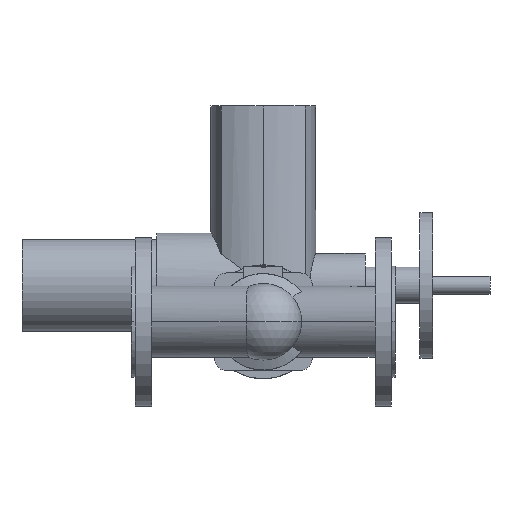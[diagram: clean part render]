
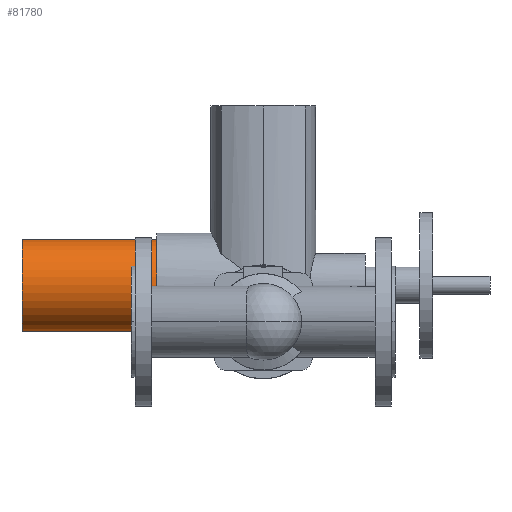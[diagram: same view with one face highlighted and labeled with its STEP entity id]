
A CAD part, front view. The second image highlights one B-rep face of the part: STEP entity #81780.
In plain terms, the highlighted cylindrical face has radius 50.5 mm (diameter 101 mm), a partial arc.
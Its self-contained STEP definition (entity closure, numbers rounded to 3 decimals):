
#66750=CARTESIAN_POINT('',(-46.,435.,40.));
#66760=DIRECTION('',(1.,0.,0.));
#66770=DIRECTION('',(0.,0.,-1.));
#66780=AXIS2_PLACEMENT_3D('',#66750,#66760,#66770);
#66790=CYLINDRICAL_SURFACE('',#66780,50.5);
#66800=CARTESIAN_POINT('',(-46.,435.,-10.5));
#66810=DIRECTION('',(1.,0.,0.));
#66820=VECTOR('',#66810,1.);
#66830=LINE('',#66800,#66820);
#66840=CARTESIAN_POINT('',(-120.,435.,-10.5));
#66850=VERTEX_POINT('',#66840);
#66860=CARTESIAN_POINT('',(28.,435.,-10.5));
#66870=VERTEX_POINT('',#66860);
#66880=EDGE_CURVE('',#66850,#66870,#66830,.T.);
#66900=CARTESIAN_POINT('',(28.,435.,40.));
#66910=DIRECTION('',(-1.,0.,0.));
#66920=DIRECTION('',(0.,0.,-1.));
#66930=AXIS2_PLACEMENT_3D('',#66900,#66910,#66920);
#66940=CIRCLE('',#66930,50.5);
#66950=CARTESIAN_POINT('',(28.,435.,90.5));
#66960=VERTEX_POINT('',#66950);
#66990=CARTESIAN_POINT('',(-46.,435.,90.5));
#67000=DIRECTION('',(1.,0.,0.));
#67010=VECTOR('',#67000,1.);
#67020=LINE('',#66990,#67010);
#67030=CARTESIAN_POINT('',(-120.,435.,90.5));
#67040=VERTEX_POINT('',#67030);
#67050=EDGE_CURVE('',#67040,#66960,#67020,.T.);
#67070=CARTESIAN_POINT('',(-120.,435.,40.));
#67080=DIRECTION('',(-1.,0.,0.));
#67090=DIRECTION('',(0.,0.,-1.));
#67100=AXIS2_PLACEMENT_3D('',#67070,#67080,#67090);
#67110=CIRCLE('',#67100,50.5);
#80170=EDGE_CURVE('',#66850,#67040,#67110,.T.);
#80750=EDGE_CURVE('',#66870,#66960,#66940,.T.);
#81720=ORIENTED_EDGE('',*,*,#80170,.F.);
#81730=ORIENTED_EDGE('',*,*,#67050,.F.);
#81740=ORIENTED_EDGE('',*,*,#80750,.T.);
#81750=ORIENTED_EDGE('',*,*,#66880,.T.);
#81760=EDGE_LOOP('',(#81750,#81740,#81730,#81720));
#81770=FACE_OUTER_BOUND('',#81760,.T.);
#81780=ADVANCED_FACE('',(#81770),#66790,.T.);
